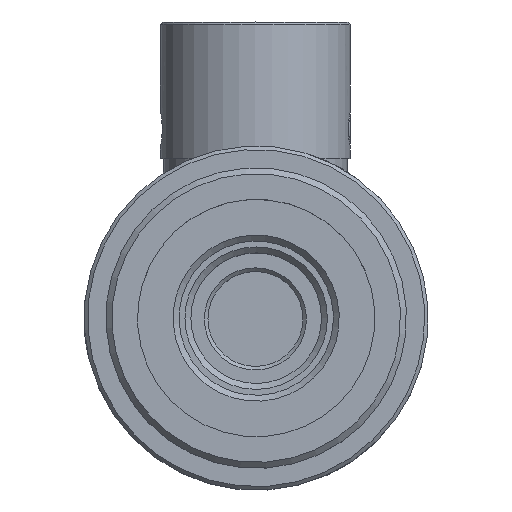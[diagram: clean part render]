
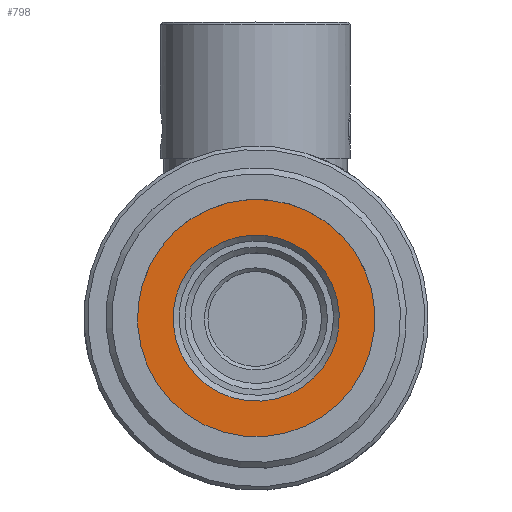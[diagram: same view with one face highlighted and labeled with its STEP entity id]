
A CAD part, top view. The second image highlights one B-rep face of the part: STEP entity #798.
In plain terms, the highlighted planar face has unit normal (0, 0, 1).
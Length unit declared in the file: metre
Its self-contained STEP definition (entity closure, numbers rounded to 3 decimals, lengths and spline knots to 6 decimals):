
#798=ADVANCED_FACE('2:15398',(#1894,#1895),#1896,.F.);
#1894=FACE_BOUND('',#3399,.T.);
#1895=FACE_OUTER_BOUND('',#3400,.T.);
#1896=PLANE('',#3401);
#3399=EDGE_LOOP('',(#5584));
#3400=EDGE_LOOP('',(#5585));
#3401=AXIS2_PLACEMENT_3D('',#5586,#5587,#5588);
#5584=ORIENTED_EDGE('',*,*,#8021,.T.);
#5585=ORIENTED_EDGE('',*,*,#8035,.F.);
#5586=CARTESIAN_POINT('',(0.015277,-0.004595,0.0294));
#5587=DIRECTION('',(0.,0.0,-1.0));
#5588=DIRECTION('',(0.,1.0,0.));
#8021=EDGE_CURVE('2:17063',#9606,#9606,#9607,.T.);
#8035=EDGE_CURVE('2:17030',#9629,#9629,#9630,.T.);
#9606=VERTEX_POINT('',#12262);
#9607=CIRCLE('',#12263,0.007);
#9629=VERTEX_POINT('',#12285);
#9630=CIRCLE('',#12286,0.01);
#12262=CARTESIAN_POINT('',(0.004824,0.001709,0.0294));
#12263=AXIS2_PLACEMENT_3D('',#14154,#14155,#14156);
#12285=CARTESIAN_POINT('',(0.00462,0.004702,0.0294));
#12286=AXIS2_PLACEMENT_3D('',#14181,#14182,#14183);
#14154=CARTESIAN_POINT('',(0.0053,-0.005275,0.0294));
#14155=DIRECTION('',(0.,0.0,-1.0));
#14156=DIRECTION('',(-0.068,0.998,0.));
#14181=CARTESIAN_POINT('',(0.0053,-0.005275,0.0294));
#14182=DIRECTION('',(0.,0.0,-1.0));
#14183=DIRECTION('',(-0.068,0.998,0.));
